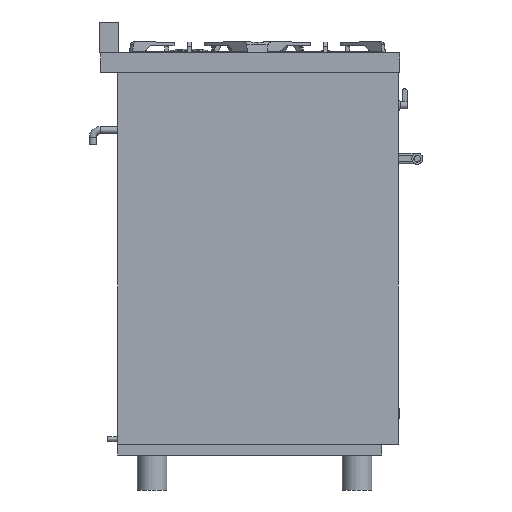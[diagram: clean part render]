
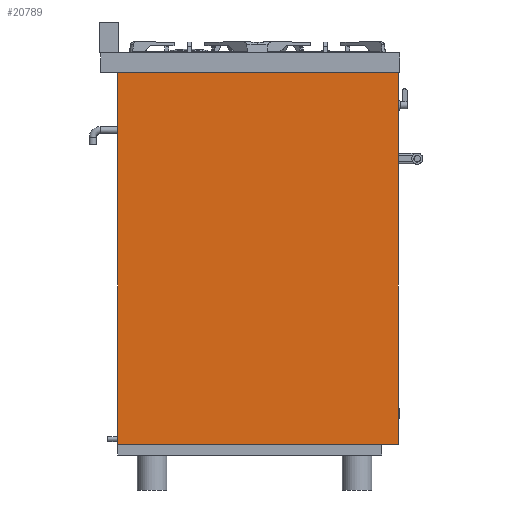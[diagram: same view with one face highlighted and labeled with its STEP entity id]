
A CAD part, left-side view. The second image highlights one B-rep face of the part: STEP entity #20789.
In plain terms, the highlighted planar face has unit normal (-1, 0, 0).
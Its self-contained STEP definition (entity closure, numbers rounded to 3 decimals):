
#1164=LINE('',#32696,#2881);
#1200=LINE('',#32827,#2917);
#1203=LINE('',#32833,#2920);
#1206=LINE('',#32838,#2923);
#2881=VECTOR('',#25400,1000.);
#2917=VECTOR('',#25536,1000.);
#2920=VECTOR('',#25541,1000.);
#2923=VECTOR('',#25546,1000.);
#6902=ORIENTED_EDGE('',*,*,#11078,.T.);
#6903=ORIENTED_EDGE('',*,*,#11021,.F.);
#6904=ORIENTED_EDGE('',*,*,#11084,.T.);
#6905=ORIENTED_EDGE('',*,*,#11081,.T.);
#11021=EDGE_CURVE('',#13343,#13344,#1164,.T.);
#11078=EDGE_CURVE('',#13384,#13344,#1200,.T.);
#11081=EDGE_CURVE('',#13386,#13384,#1203,.T.);
#11084=EDGE_CURVE('',#13343,#13386,#1206,.T.);
#13343=VERTEX_POINT('',#32695);
#13344=VERTEX_POINT('',#32697);
#13384=VERTEX_POINT('',#32828);
#13386=VERTEX_POINT('',#32834);
#15341=EDGE_LOOP('',(#6902,#6903,#6904,#6905));
#16553=FACE_BOUND('',#15341,.T.);
#17506=PLANE('',#22217);
#20789=ADVANCED_FACE('',(#16553),#17506,.T.);
#22217=AXIS2_PLACEMENT_3D('',#32839,#25547,#25548);
#25400=DIRECTION('',(0.,0.,1.));
#25536=DIRECTION('',(0.,1.,0.));
#25541=DIRECTION('',(0.,0.,1.));
#25546=DIRECTION('',(0.,-1.,0.));
#25547=DIRECTION('',(-1.,0.,0.));
#25548=DIRECTION('',(0.,-1.,0.));
#32695=CARTESIAN_POINT('',(-49.8,560.5,-699.975));
#32696=CARTESIAN_POINT('',(-49.8,560.5,-699.975));
#32697=CARTESIAN_POINT('',(-49.8,560.5,43.025));
#32827=CARTESIAN_POINT('',(-49.8,-1.,43.025));
#32828=CARTESIAN_POINT('',(-49.8,-1.,43.025));
#32833=CARTESIAN_POINT('',(-49.8,-1.,-699.975));
#32834=CARTESIAN_POINT('',(-49.8,-1.,-699.975));
#32838=CARTESIAN_POINT('',(-49.8,560.5,-699.975));
#32839=CARTESIAN_POINT('',(-49.8,0.,0.));
